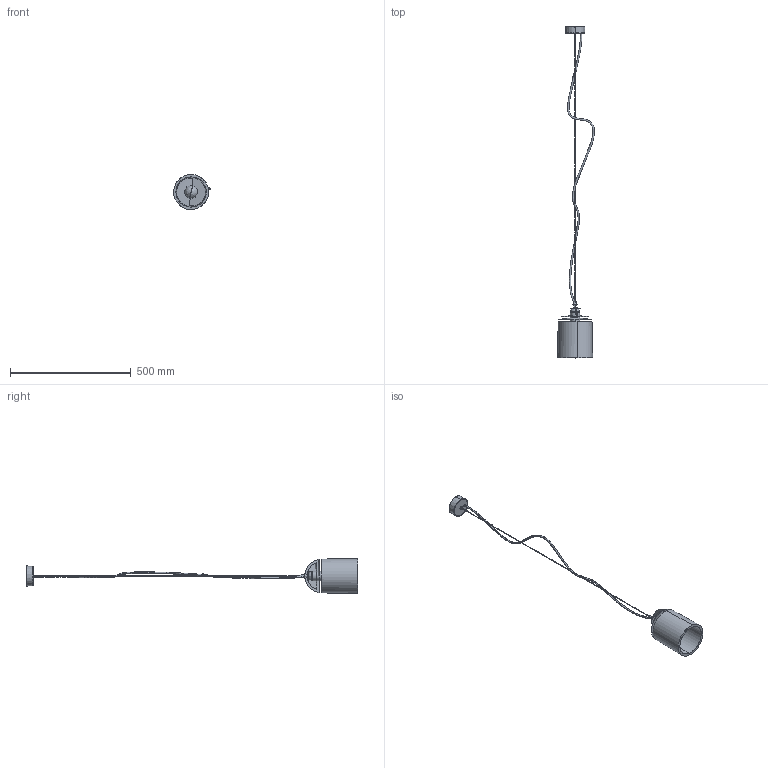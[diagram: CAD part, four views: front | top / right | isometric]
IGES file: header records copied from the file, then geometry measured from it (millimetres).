
Start section: SolidWorks IGES file using analytic representation for surfaces
Global section: file name: E:\3D lampy\Lava\Lava_6855.IGS; native system: SolidWorks 2016; preprocessor: SolidWorks 2016; author: Asia; date: 161028.115042; units: millimetre
Bounding box: 152.55 x 1372.96 x 144.92 mm (x, y, z)
Surface area: 263635.2 mm2 (no closed solid volume)
Topology: 0 solids, 0 shells, 469 faces, 5064 edges, 5062 vertices
Faces by surface type: bspline 268, revolution 201
